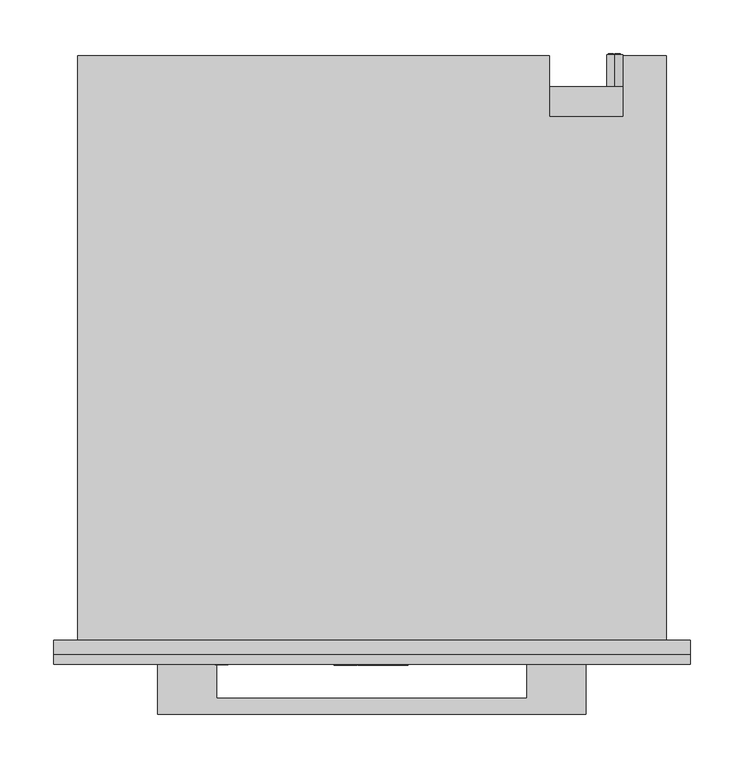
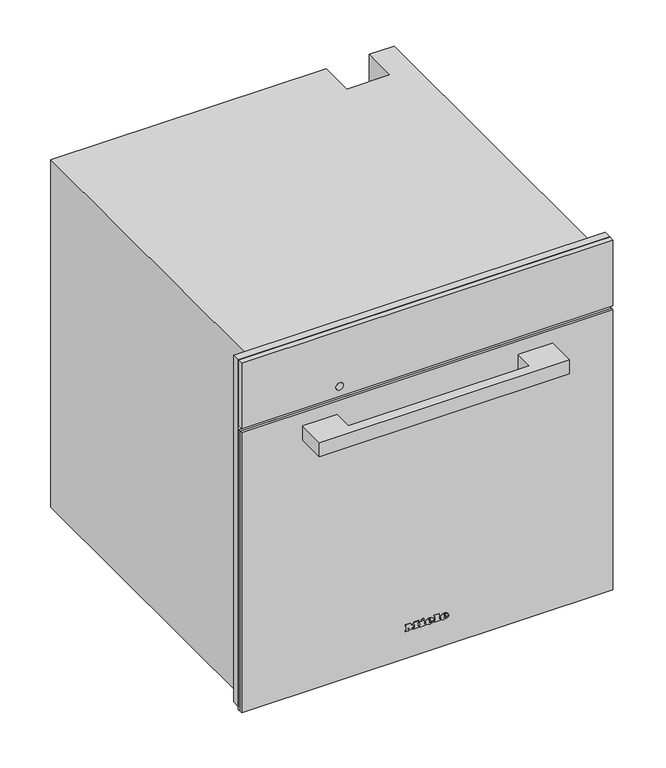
"""IFC4 building model written with IfcOpenShell, lengths in millimetres: proxy geometry, 12091810_NER_DGC7860HCPro_GRGR : 23786039_NER_12091810_DGC7860HCPro_GRGR."""

from ifc_helpers import new_model, si_unit, point, frame, frame_2d, origin, place, context, project, spatial, polyline, circle_curve, ellipse_curve, trimmed, segment, composite_curve, outline, extrude, faceted_brep, source, transform, mapped, element, save
from ifc_brep_helpers import plane_surface, cylinder_surface, revolved_surface, extruded_surface, advanced_brep


def specialty_equipment_02b3a867(model_context):
    return source(origin(), model_context, "Body", "SolidModel", [
        extrude(outline(polyline([(596.0, 297.5), (596.0, -297.5), (9.0, -297.5), (9.0, 297.5), (596.0, 297.5)]), holes=[polyline([(485.0, -272.5), (485.0, 272.5), (27.0, 272.5), (27.0, -272.5), (485.0, -272.5)])]), frame((0.0, -13.0, 0.0), z_axis=(0.0, 1.0, 0.0), x_axis=(0.0, 0.0, 1.0)), (0.0, 0.0, 1.0), 13.0),
        advanced_brep(
        [(227.0, 547.0, 396.5), (227.0, 547.0, 381.5), (221.4098301, 547.0, 384.0), (225.5, 547.0, 384.0), (225.5, 547.0, 394.0), (224.4955303, 547.0, 394.0), (224.4955303, 547.0, 385.0), (221.0315043, 547.0, 385.0), (221.0315043, 547.0, 384.4582978), (232.0, 547.0, 384.0), (232.0, 547.0, 394.0), (227.0, 547.0, 394.0), (227.0, 547.0, 393.0), (231.0, 547.0, 393.0), (231.0, 547.0, 389.5), (228.0, 547.0, 389.5), (228.0, 547.0, 388.5), (231.0, 547.0, 388.5), (231.0, 547.0, 385.0), (227.0, 547.0, 385.0), (227.0, 547.0, 384.0), (227.0, 517.0, 381.5), (227.0, 517.0, 396.5), (232.0, 548.0, 394.0), (232.0, 548.0, 384.0), (227.0, 548.0, 384.0), (227.0, 548.0, 385.0), (231.0, 548.0, 385.0), (231.0, 548.0, 388.5), (228.0, 548.0, 388.5), (228.0, 548.0, 389.5), (231.0, 548.0, 389.5), (231.0, 548.0, 393.0), (227.0, 548.0, 393.0), (227.0, 548.0, 394.0), (225.5, 548.0, 384.0), (221.0315043, 548.0, 384.0), (221.0315043, 548.0, 385.0), (224.4955303, 548.0, 385.0), (224.4955303, 548.0, 394.0), (225.5, 548.0, 394.0), (221.0315043, 547.0, 384.0)],
        [
            (0, 1, circle_curve(frame((227.0, 547.0, 389.0), z_axis=(0.0, 1.0, 0.0), x_axis=(0.0, 0.0, 1.0)), 7.5)),
            (1, 2, circle_curve(frame((227.0, 547.0, 389.0), z_axis=(0.0, 1.0, 0.0), x_axis=(0.0, 0.0, 1.0)), 7.5)),
            (2, 3),
            (3, 4),
            (4, 5),
            (5, 6),
            (6, 7),
            (7, 8),
            (8, 0, circle_curve(frame((227.0, 547.0, 389.0), z_axis=(0.0, 1.0, 0.0), x_axis=(0.0, 0.0, 1.0)), 7.5)),
            (9, 10),
            (10, 11),
            (11, 12),
            (12, 13),
            (13, 14),
            (14, 15),
            (15, 16),
            (16, 17),
            (17, 18),
            (18, 19),
            (19, 20),
            (20, 9),
            (21, 22, circle_curve(frame((227.0, 517.0, 389.0), z_axis=(0.0, -1.0, 0.0), x_axis=(0.0, 0.0, 1.0)), 7.5)),
            (22, 21, circle_curve(frame((227.0, 517.0, 389.0), z_axis=(0.0, -1.0, 0.0), x_axis=(0.0, 0.0, 1.0)), 7.5)),
            (0, 22),
            (21, 1),
            (8, 2, circle_curve(frame((227.0, 547.0, 389.0), z_axis=(0.0, -1.0, 0.0), x_axis=(0.0, 0.0, 1.0)), 7.5)),
            (23, 24),
            (24, 25),
            (25, 26),
            (26, 27),
            (27, 28),
            (28, 29),
            (29, 30),
            (30, 31),
            (31, 32),
            (32, 33),
            (33, 34),
            (34, 23),
            (35, 36),
            (36, 37),
            (37, 38),
            (38, 39),
            (39, 40),
            (40, 35),
            (8, 41),
            (41, 2),
            (23, 10),
            (9, 24),
            (20, 25),
            (19, 26),
            (18, 27),
            (17, 28),
            (16, 29),
            (15, 30),
            (14, 31),
            (13, 32),
            (12, 33),
            (11, 34),
            (35, 3),
            (41, 36),
            (7, 37),
            (6, 38),
            (5, 39),
            (4, 40),
        ],
        [
            plane_surface(frame((227.0, 547.0, 396.5), z_axis=(0.0, 1.0, 0.0), x_axis=(1.0, 0.0, 0.0))),
            plane_surface(frame((227.0, 517.0, 396.5), z_axis=(0.0, -1.0, 0.0), x_axis=(-1.0, 0.0, 0.0))),
            cylinder_surface(frame((227.0, 547.0, 389.0), z_axis=(0.0, -1.0, 0.0), x_axis=(0.0, 0.0, 1.0)), 7.5),
            plane_surface(frame((232.0, 548.0, 394.0), z_axis=(0.0, 1.0, 0.0), x_axis=(0.0, 0.0, -1.0))),
            plane_surface(frame((232.0, 547.0, 394.0), z_axis=(0.0, -1.0, 0.0), x_axis=(0.0, 0.0, 1.0))),
            plane_surface(frame((232.0, 548.0, 394.0), z_axis=(1.0, 0.0, 0.0), x_axis=(0.0, -1.0, 0.0))),
            plane_surface(frame((232.0, 548.0, 384.0), z_axis=(0.0, 0.0, -1.0), x_axis=(0.0, -1.0, 0.0))),
            plane_surface(frame((227.0, 548.0, 384.0), z_axis=(-1.0, 0.0, 0.0), x_axis=(0.0, -1.0, 0.0))),
            plane_surface(frame((227.0, 548.0, 385.0), z_axis=(0.0, 0.0, 1.0), x_axis=(0.0, -1.0, 0.0))),
            plane_surface(frame((231.0, 548.0, 385.0), z_axis=(-1.0, 0.0, 0.0), x_axis=(0.0, -1.0, 0.0))),
            plane_surface(frame((231.0, 548.0, 388.5), z_axis=(0.0, 0.0, -1.0), x_axis=(0.0, -1.0, 0.0))),
            plane_surface(frame((228.0, 548.0, 388.5), z_axis=(-1.0, 0.0, 0.0), x_axis=(0.0, -1.0, 0.0))),
            plane_surface(frame((228.0, 548.0, 389.5), z_axis=(0.0, 0.0, 1.0), x_axis=(0.0, -1.0, 0.0))),
            plane_surface(frame((231.0, 548.0, 389.5), z_axis=(-1.0, 0.0, 0.0), x_axis=(0.0, -1.0, 0.0))),
            plane_surface(frame((231.0, 548.0, 393.0), z_axis=(0.0, 0.0, -1.0), x_axis=(0.0, -1.0, 0.0))),
            plane_surface(frame((227.0, 548.0, 393.0), z_axis=(-1.0, 0.0, 0.0), x_axis=(0.0, -1.0, 0.0))),
            plane_surface(frame((227.0, 548.0, 394.0), z_axis=(0.0, 0.0, 1.0), x_axis=(0.0, -1.0, 0.0))),
            plane_surface(frame((225.5, 548.0, 384.0), z_axis=(0.0, 0.0, -1.0), x_axis=(0.0, -1.0, 0.0))),
            plane_surface(frame((221.0315043, 548.0, 384.0), z_axis=(-1.0, 0.0, 0.0), x_axis=(0.0, -1.0, 0.0))),
            plane_surface(frame((221.0315043, 548.0, 385.0), z_axis=(0.0, 0.0, 1.0), x_axis=(0.0, -1.0, 0.0))),
            plane_surface(frame((224.4955303, 548.0, 385.0), z_axis=(-1.0, 0.0, 0.0), x_axis=(0.0, -1.0, 0.0))),
            plane_surface(frame((224.4955303, 548.0, 394.0), z_axis=(0.0, 0.0, 1.0), x_axis=(0.0, -1.0, 0.0))),
            plane_surface(frame((225.5, 548.0, 394.0), z_axis=(1.0, 0.0, 0.0), x_axis=(0.0, -1.0, 0.0))),
        ],
        [
            (0, [[1, 2, 3, 4, 5, 6, 7, 8, 9], [10, 11, 12, 13, 14, 15, 16, 17, 18, 19, 20, 21]]),
            (1, [[22, 23]]),
            (2, [[-1, 24, -22, 25]]),
            (2, [[-23, -24, -9, 26, -2, -25]]),
            (3, [[27, 28, 29, 30, 31, 32, 33, 34, 35, 36, 37, 38]]),
            (3, [[39, 40, 41, 42, 43, 44]]),
            (4, [[45, 46, -26]]),
            (5, [[-27, 47, -10, 48]]),
            (6, [[-28, -48, -21, 49]]),
            (7, [[-29, -49, -20, 50]]),
            (8, [[-30, -50, -19, 51]]),
            (9, [[-31, -51, -18, 52]]),
            (10, [[-32, -52, -17, 53]]),
            (11, [[-33, -53, -16, 54]]),
            (12, [[-34, -54, -15, 55]]),
            (13, [[-35, -55, -14, 56]]),
            (14, [[-36, -56, -13, 57]]),
            (15, [[-37, -57, -12, 58]]),
            (16, [[-38, -58, -11, -47]]),
            (17, [[-39, 59, -3, -46, 60]]),
            (18, [[-40, -60, -45, -8, 61]]),
            (19, [[-41, -61, -7, 62]]),
            (20, [[-42, -62, -6, 63]]),
            (21, [[-43, -63, -5, 64]]),
            (22, [[-44, -64, -4, -59]]),
        ],
    ),
        faceted_brep([(-275.0, 546.0, 0.0), (-275.0, 546.0, 588.0), (166.0, 546.0, 588.0), (166.0, 546.0, 0.0), (235.0, 546.0, 588.0), (275.0, 546.0, 588.0), (275.0, 546.0, 478.0), (235.0, 546.0, 478.0), (275.0, 0.0, 588.0), (-275.0, 0.0, 588.0), (-275.0, 0.0, 0.0), (275.0, 0.0, 0.0), (-272.5, 0.0, 485.0), (272.5, 0.0, 485.0), (272.5, 0.0, 27.0), (-272.5, 0.0, 27.0), (235.0, 489.0, 588.0), (166.0, 489.0, 588.0), (166.0, 517.0, 0.0), (275.0, 517.0, 0.0), (275.0, 517.0, 478.0), (272.5, 17.0, 485.0), (-272.5, 17.0, 485.0), (-272.5, 17.0, 27.0), (272.5, 17.0, 27.0), (231.0, 17.0, 409.0), (231.0, 17.0, 61.0), (-231.0, 17.0, 61.0), (-231.0, 17.0, 409.0), (231.0, 411.0, 409.0), (-231.0, 411.0, 409.0), (-231.0, 411.0, 61.0), (231.0, 411.0, 61.0), (235.0, 489.0, 477.0), (166.0, 489.0, 477.0), (166.0, 517.0, 477.0), (235.0, 517.0, 477.0), (235.0, 517.0, 478.0)], [[[0, 1, 2, 3]], [[4, 5, 6, 7]], [[8, 9, 10, 11], [12, 13, 14, 15]], [[9, 8, 5, 4, 16, 17, 2, 1]], [[1, 0, 10, 9]], [[11, 10, 0, 3, 18, 19]], [[8, 11, 19, 20, 6, 5]], [[21, 22, 23, 24], [25, 26, 27, 28]], [[22, 21, 13, 12]], [[23, 22, 12, 15]], [[24, 23, 15, 14]], [[21, 24, 14, 13]], [[29, 30, 31, 32]], [[29, 32, 26, 25]], [[32, 31, 27, 26]], [[31, 30, 28, 27]], [[30, 29, 25, 28]], [[16, 33, 34, 17]], [[17, 34, 35, 18, 3, 2]], [[34, 33, 36, 35]], [[33, 16, 4, 7, 37, 36]], [[37, 20, 19, 18, 35, 36]], [[20, 37, 7, 6]]]),
        advanced_brep(
        [(26.2998, -23.0, 52.7018), (26.2998, -23.0, 53.8532), (33.9264, -23.0, 53.8532), (20.6568, -23.0, 53.8532), (23.7918, -23.0, 50.0), (33.7326, -23.0, 52.7018), (30.2898, -23.0, 52.7018), (27.5766, -23.0, 51.425), (26.2998, -23.0, 55.3124), (26.2998, -23.0, 56.555), (28.2492, -23.0, 56.555), (28.2492, -23.0, 55.3124), (26.2998, -22.0, 52.7018), (27.5766, -22.0, 51.425), (30.2898, -22.0, 52.7018), (33.7326, -22.0, 52.7018), (23.7918, -22.0, 50.0), (20.6568, -22.0, 53.8532), (33.9264, -22.0, 53.8532), (26.2998, -22.0, 53.8532), (26.2998, -22.0, 55.3124), (28.2492, -22.0, 55.3124), (28.2492, -22.0, 56.555), (26.2998, -22.0, 56.555)],
        [
            (0, 1),
            (1, 2),
            (2, 3, ellipse_curve(frame((27.2916, -23.0, 53.8532), z_axis=(0.0, -1.0, 0.0), x_axis=(-1.0, 0.0, 0.0)), 6.6348, 5.4834)),
            (3, 4, circle_curve(frame((25.0686622, -23.0, 54.2408), z_axis=(0.0, -1.0, 0.0), x_axis=(0.0, 0.0, -1.0)), 4.4288556)),
            (4, 5, circle_curve(frame((27.1587808, -23.0, 57.2504), z_axis=(0.0, -1.0, 0.0), x_axis=(0.0, 0.0, -1.0)), 7.9940516)),
            (5, 6),
            (6, 7, circle_curve(frame((28.1338588, -23.0, 53.762), z_axis=(0.0, 1.0, 0.0), x_axis=(0.0, 0.0, -1.0)), 2.4025208)),
            (7, 0, circle_curve(frame((27.5766, -23.0, 52.7018), z_axis=(0.0, 1.0, 0.0), x_axis=(0.0, 0.0, -1.0)), 1.2768)),
            (8, 9),
            (9, 10, circle_curve(frame((27.2745, -23.0, 56.555), z_axis=(0.0, 1.0, 0.0), x_axis=(0.0, 0.0, -1.0)), 0.9747)),
            (10, 11),
            (11, 8),
            (12, 13, circle_curve(frame((27.5766, -22.0, 52.7018), z_axis=(0.0, -1.0, 0.0), x_axis=(0.0, 0.0, -1.0)), 1.2768)),
            (13, 14, circle_curve(frame((28.1338588, -22.0, 53.762), z_axis=(0.0, -1.0, 0.0), x_axis=(0.0, 0.0, -1.0)), 2.4025208)),
            (14, 15),
            (15, 16, circle_curve(frame((27.1587808, -22.0, 57.2504), z_axis=(0.0, 1.0, 0.0), x_axis=(0.0, 0.0, -1.0)), 7.9940516)),
            (16, 17, circle_curve(frame((25.0686622, -22.0, 54.2408), z_axis=(0.0, 1.0, 0.0), x_axis=(0.0, 0.0, -1.0)), 4.4288556)),
            (17, 18, ellipse_curve(frame((27.2916, -22.0, 53.8532), z_axis=(0.0, 1.0, 0.0), x_axis=(-1.0, 0.0, 0.0)), 6.6348, 5.4834)),
            (18, 19),
            (19, 12),
            (20, 21),
            (21, 22),
            (22, 23, circle_curve(frame((27.2745, -22.0, 56.555), z_axis=(0.0, -1.0, 0.0), x_axis=(0.0, 0.0, -1.0)), 0.9747)),
            (23, 20),
            (0, 12),
            (19, 1),
            (18, 2),
            (5, 15),
            (14, 6),
            (17, 3),
            (13, 7),
            (16, 4),
            (8, 20),
            (23, 9),
            (22, 10),
            (21, 11),
        ],
        [
            plane_surface(frame((26.2998, -23.0, 53.8532), z_axis=(0.0, -1.0, 0.0), x_axis=(0.0, 0.0, 1.0))),
            plane_surface(frame((26.2998, -22.0, 53.8532), z_axis=(0.0, 1.0, 0.0), x_axis=(0.0, 0.0, -1.0))),
            plane_surface(frame((26.2998, -23.0, 52.7018), z_axis=(1.0, 0.0, 0.0), x_axis=(0.0, 1.0, 0.0))),
            plane_surface(frame((26.2998, -23.0, 53.8532), z_axis=(0.0, 0.0, -1.0), x_axis=(0.0, 1.0, 0.0))),
            plane_surface(frame((33.7326, -23.0, 52.7018), z_axis=(0.0, 0.0, 1.0), x_axis=(0.0, 1.0, 0.0))),
            extruded_surface(trimmed(ellipse_curve(frame((27.2916, -21.0, 53.8532), z_axis=(0.0, -1.0, 0.0), x_axis=(-1.0, 0.0, 0.0)), 6.6348, 5.4834), [point((33.9264, -21.0, 53.8532))], [point((20.6568, -21.0, 53.8532))], True, "CARTESIAN"), (0.0, -1.0, 0.0), 1.0),
            revolved_surface(polyline([(28.1338588, -22.0, 51.3594792), (28.1338588, -23.0, 51.3594792)]), (28.1338588, -22.0, 53.762), (0.0, 1.0, 0.0)),
            revolved_surface(polyline([(27.5766, -22.0, 51.425), (27.5766, -23.0, 51.425)]), (27.5766, -22.0, 52.7018), (0.0, 1.0, 0.0)),
            cylinder_surface(frame((25.0686622, -22.0, 54.2408), z_axis=(0.0, -1.0, 0.0), x_axis=(0.0, 0.0, -1.0)), 4.4288556),
            cylinder_surface(frame((27.1587808, -22.0, 57.2504), z_axis=(0.0, -1.0, 0.0), x_axis=(0.0, 0.0, -1.0)), 7.9940516),
            plane_surface(frame((26.2998, -23.0, 55.3124), z_axis=(1.0, 0.0, 0.0), x_axis=(0.0, 1.0, 0.0))),
            revolved_surface(polyline([(27.2745, -22.0, 55.5803), (27.2745, -23.0, 55.5803)]), (27.2745, -22.0, 56.555), (0.0, 1.0, 0.0)),
            plane_surface(frame((28.2492, -23.0, 56.555), z_axis=(-1.0, 0.0, 0.0), x_axis=(0.0, 1.0, 0.0))),
            plane_surface(frame((28.2492, -23.0, 55.3124), z_axis=(0.0, 0.0, 1.0), x_axis=(0.0, 1.0, 0.0))),
        ],
        [
            (0, [[1, 2, 3, 4, 5, 6, 7, 8], [9, 10, 11, 12]]),
            (1, [[13, 14, 15, 16, 17, 18, 19, 20], [21, 22, 23, 24]]),
            (2, [[-1, 25, -20, 26]]),
            (3, [[-2, -26, -19, 27]]),
            (4, [[-6, 28, -15, 29]]),
            (5, [[-3, -27, -18, 30]]),
            (6, [[-7, -29, -14, 31]]),
            (7, [[-8, -31, -13, -25]]),
            (8, [[-4, -30, -17, 32]]),
            (9, [[-5, -32, -16, -28]]),
            (10, [[-9, 33, -24, 34]]),
            (11, [[-10, -34, -23, 35]]),
            (12, [[-11, -35, -22, 36]]),
            (13, [[-12, -36, -21, -33]]),
        ],
    ),
        advanced_brep(
        [(2.508, -23.0, 52.7018), (2.508, -23.0, 53.8532), (10.1346, -23.0, 53.8532), (-3.135, -23.0, 53.8532), (0.0, -23.0, 50.0), (9.9408, -23.0, 52.7018), (6.498, -23.0, 52.7018), (3.7848, -23.0, 51.425), (2.508, -23.0, 55.3124), (2.508, -23.0, 56.555), (4.4574, -23.0, 56.555), (4.4574, -23.0, 55.3124), (2.508, -22.0, 52.7018), (3.7848, -22.0, 51.425), (6.498, -22.0, 52.7018), (9.9408, -22.0, 52.7018), (0.0, -22.0, 50.0), (-3.135, -22.0, 53.8532), (10.1346, -22.0, 53.8532), (2.508, -22.0, 53.8532), (2.508, -22.0, 55.3124), (4.4574, -22.0, 55.3124), (4.4574, -22.0, 56.555), (2.508, -22.0, 56.555)],
        [
            (0, 1),
            (1, 2),
            (2, 3, ellipse_curve(frame((3.4998, -23.0, 53.8532), z_axis=(0.0, -1.0, 0.0), x_axis=(-1.0, 0.0, 0.0)), 6.6348, 5.4834)),
            (3, 4, circle_curve(frame((1.2768622, -23.0, 54.2408), z_axis=(0.0, -1.0, 0.0), x_axis=(0.0, 0.0, -1.0)), 4.4288556)),
            (4, 5, circle_curve(frame((3.3669808, -23.0, 57.2504), z_axis=(0.0, -1.0, 0.0), x_axis=(0.0, 0.0, -1.0)), 7.9940516)),
            (5, 6),
            (6, 7, circle_curve(frame((4.3420588, -23.0, 53.762), z_axis=(0.0, 1.0, 0.0), x_axis=(0.0, 0.0, -1.0)), 2.4025208)),
            (7, 0, circle_curve(frame((3.7848, -23.0, 52.7018), z_axis=(0.0, 1.0, 0.0), x_axis=(0.0, 0.0, -1.0)), 1.2768)),
            (8, 9),
            (9, 10, circle_curve(frame((3.4827, -23.0, 56.555), z_axis=(0.0, 1.0, 0.0), x_axis=(0.0, 0.0, -1.0)), 0.9747)),
            (10, 11),
            (11, 8),
            (12, 13, circle_curve(frame((3.7848, -22.0, 52.7018), z_axis=(0.0, -1.0, 0.0), x_axis=(0.0, 0.0, -1.0)), 1.2768)),
            (13, 14, circle_curve(frame((4.3420588, -22.0, 53.762), z_axis=(0.0, -1.0, 0.0), x_axis=(0.0, 0.0, -1.0)), 2.4025208)),
            (14, 15),
            (15, 16, circle_curve(frame((3.3669808, -22.0, 57.2504), z_axis=(0.0, 1.0, 0.0), x_axis=(0.0, 0.0, -1.0)), 7.9940516)),
            (16, 17, circle_curve(frame((1.2768622, -22.0, 54.2408), z_axis=(0.0, 1.0, 0.0), x_axis=(0.0, 0.0, -1.0)), 4.4288556)),
            (17, 18, ellipse_curve(frame((3.4998, -22.0, 53.8532), z_axis=(0.0, 1.0, 0.0), x_axis=(-1.0, 0.0, 0.0)), 6.6348, 5.4834)),
            (18, 19),
            (19, 12),
            (20, 21),
            (21, 22),
            (22, 23, circle_curve(frame((3.4827, -22.0, 56.555), z_axis=(0.0, -1.0, 0.0), x_axis=(0.0, 0.0, -1.0)), 0.9747)),
            (23, 20),
            (0, 12),
            (19, 1),
            (18, 2),
            (5, 15),
            (14, 6),
            (17, 3),
            (13, 7),
            (16, 4),
            (8, 20),
            (23, 9),
            (22, 10),
            (21, 11),
        ],
        [
            plane_surface(frame((2.508, -23.0, 53.8532), z_axis=(0.0, -1.0, 0.0), x_axis=(0.0, 0.0, 1.0))),
            plane_surface(frame((2.508, -22.0, 53.8532), z_axis=(0.0, 1.0, 0.0), x_axis=(0.0, 0.0, -1.0))),
            plane_surface(frame((2.508, -23.0, 52.7018), z_axis=(1.0, 0.0, 0.0), x_axis=(0.0, 1.0, 0.0))),
            plane_surface(frame((2.508, -23.0, 53.8532), z_axis=(0.0, 0.0, -1.0), x_axis=(0.0, 1.0, 0.0))),
            plane_surface(frame((9.9408, -23.0, 52.7018), z_axis=(0.0, 0.0, 1.0), x_axis=(0.0, 1.0, 0.0))),
            extruded_surface(trimmed(ellipse_curve(frame((3.4998, -21.0, 53.8532), z_axis=(0.0, -1.0, 0.0), x_axis=(-1.0, 0.0, 0.0)), 6.6348, 5.4834), [point((10.1346, -21.0, 53.8532))], [point((-3.135, -21.0, 53.8532))], True, "CARTESIAN"), (0.0, -1.0, 0.0), 1.0),
            revolved_surface(polyline([(4.3420588, -22.0, 51.3594792), (4.3420588, -23.0, 51.3594792)]), (4.3420588, -22.0, 53.762), (0.0, 1.0, 0.0)),
            revolved_surface(polyline([(3.7848, -22.0, 51.425), (3.7848, -23.0, 51.425)]), (3.7848, -22.0, 52.7018), (0.0, 1.0, 0.0)),
            cylinder_surface(frame((1.2768622, -22.0, 54.2408), z_axis=(0.0, -1.0, 0.0), x_axis=(0.0, 0.0, -1.0)), 4.4288556),
            cylinder_surface(frame((3.3669808, -22.0, 57.2504), z_axis=(0.0, -1.0, 0.0), x_axis=(0.0, 0.0, -1.0)), 7.9940516),
            plane_surface(frame((2.508, -23.0, 55.3124), z_axis=(1.0, 0.0, 0.0), x_axis=(0.0, 1.0, 0.0))),
            revolved_surface(polyline([(3.4827, -22.0, 55.5803), (3.4827, -23.0, 55.5803)]), (3.4827, -22.0, 56.555), (0.0, 1.0, 0.0)),
            plane_surface(frame((4.4574, -23.0, 56.555), z_axis=(-1.0, 0.0, 0.0), x_axis=(0.0, 1.0, 0.0))),
            plane_surface(frame((4.4574, -23.0, 55.3124), z_axis=(0.0, 0.0, 1.0), x_axis=(0.0, 1.0, 0.0))),
        ],
        [
            (0, [[1, 2, 3, 4, 5, 6, 7, 8], [9, 10, 11, 12]]),
            (1, [[13, 14, 15, 16, 17, 18, 19, 20], [21, 22, 23, 24]]),
            (2, [[-1, 25, -20, 26]]),
            (3, [[-2, -26, -19, 27]]),
            (4, [[-6, 28, -15, 29]]),
            (5, [[-3, -27, -18, 30]]),
            (6, [[-7, -29, -14, 31]]),
            (7, [[-8, -31, -13, -25]]),
            (8, [[-4, -30, -17, 32]]),
            (9, [[-5, -32, -16, -28]]),
            (10, [[-9, 33, -24, 34]]),
            (11, [[-10, -34, -23, 35]]),
            (12, [[-11, -35, -22, 36]]),
            (13, [[-12, -36, -21, -33]]),
        ],
    ),
        extrude(outline(polyline([(60.7274, -9.9522), (58.8806, -9.0858), (60.6818, -5.2212), (62.5286, -6.0762), (60.7274, -9.9522)])), frame((0.0, -23.0, 0.0), z_axis=(0.0, 1.0, 0.0), x_axis=(0.0, 0.0, 1.0)), (0.0, 0.0, 1.0), 1.0),
        extrude(outline(polyline([(58.6298, -12.768), (56.5892, -12.768), (56.5892, -11.4114), (51.9152, -11.4114), (51.9152, -12.768), (50.0, -12.768), (50.0, -3.7734), (51.9152, -3.7734), (51.9152, -5.0958), (58.6298, -5.0958), (58.6298, -12.768)])), frame((0.0, -23.0, 0.0), z_axis=(0.0, 1.0, 0.0), x_axis=(0.0, 0.0, 1.0)), (0.0, 0.0, 1.0), 1.0),
        extrude(outline(polyline([(59.5418, 10.773), (59.5418, 12.141), (51.9152, 12.141), (51.9152, 10.773), (50.0, 10.773), (50.0, 20.0184), (51.9152, 20.0184), (51.9152, 18.6162), (61.4, 18.6162), (61.4, 10.773), (59.5418, 10.773)])), frame((0.0, -23.0, 0.0), z_axis=(0.0, 1.0, 0.0), x_axis=(0.0, 0.0, 1.0)), (0.0, 0.0, 1.0), 1.0),
        extrude(outline(polyline([(59.5418, -35.4882), (59.5418, -34.1088), (51.9152, -34.1088), (51.9152, -35.4882), (50.0, -35.4882), (50.0, -30.4722), (51.9152, -30.4722), (51.9152, -31.8402), (56.7429247, -31.8402), (50.0, -26.7444), (56.9402223, -21.6258), (51.9152, -21.6258), (51.9152, -23.028), (50.0, -23.028), (50.0, -13.9308), (51.9152, -13.9308), (51.9152, -15.3786), (59.5418, -15.3786), (59.5418, -13.9308), (61.4, -13.9308), (61.4, -20.8734), (57.125, -24.2022), (61.4, -27.5424), (61.4, -35.4882), (59.5418, -35.4882)])), frame((0.0, -23.0, 0.0), z_axis=(0.0, 1.0, 0.0), x_axis=(0.0, 0.0, 1.0)), (0.0, 0.0, 1.0), 1.0),
        extrude(outline(polyline([(297.5, -22.0), (-297.5, -22.0), (-297.5, -13.0), (297.5, -13.0), (297.5, -22.0)])), frame((0.0, 0.0, 485.0), z_axis=(0.0, 0.0, 1.0), x_axis=(1.0, 0.0, 0.0)), (0.0, 0.0, 1.0), 111.0),
        extrude(outline(composite_curve([segment(trimmed(circle_curve(frame_2d((502.0, -140.5745637)), 6.0), [point((502.0, -146.5745637))], [point((502.0, -134.5745637))], False, "CARTESIAN"), True, "CONTINUOUS"), segment(trimmed(circle_curve(frame_2d((502.0, -140.5745637)), 6.0), [point((502.0, -134.5745637))], [point((502.0, -146.5745637))], False, "CARTESIAN"), True, "CONTINUOUS")], self_intersect=False)), frame((0.0, -22.5, 0.0), z_axis=(0.0, 1.0, 0.0), x_axis=(0.0, 0.0, 1.0)), (0.0, 0.0, 1.0), 1.0),
        extrude(outline(polyline([(-297.5, -18.0), (297.5, -18.0), (297.5, -22.0), (-297.5, -22.0), (-297.5, -18.0)])), frame((0.0, 0.0, 4.0), z_axis=(0.0, 0.0, 1.0), x_axis=(1.0, 0.0, 0.0)), (0.0, 0.0, 1.0), 474.0),
        extrude(outline(polyline([(297.5, -18.0), (-297.5, -18.0), (-297.5, -13.0), (297.5, -13.0), (297.5, -18.0)])), frame((0.0, 0.0, 4.0), z_axis=(0.0, 0.0, 1.0), x_axis=(1.0, 0.0, 0.0)), (0.0, 0.0, 1.0), 474.0),
        extrude(outline(polyline([(-200.0, -69.0), (-200.0, -22.0), (-145.0, -22.0), (-145.0, -54.0), (145.0, -54.0), (145.0, -22.0), (200.0, -22.0), (200.0, -69.0), (-200.0, -69.0)])), frame((0.0, 0.0, 432.0), z_axis=(0.0, 0.0, 1.0), x_axis=(1.0, 0.0, 0.0)), (0.0, 0.0, 1.0), 24.0),
    ])


if __name__ == "__main__":
    model = new_model("IFC4")
    model_context = context("Model", 3, world=origin())
    ifc_project = project(units=[si_unit("LENGTHUNIT", "METRE", prefix="MILLI")], contexts=[model_context])
    site = spatial("IfcSite", under=ifc_project)
    building = spatial("IfcBuilding", under=site)
    placement = place(None, origin())
    specialty_equipment_shape = specialty_equipment_02b3a867(model_context)
    element("IfcBuildingElementProxy", 1, Name="12091810_NER_DGC7860HCPro_GRGR : 23786039_NER_12091810_DGC7860HCPro_GRGR", ObjectType="12091810_NER_DGC7860HCPro_GRGR : 23786039_NER_12091810_DGC7860HCPro_GRGR", at=placement, inside=building, context=model_context, shape_type="MappedRepresentation", body=[
        mapped(specialty_equipment_shape, transform((0.0, 0.0, 0.0), x_axis=(1.0, 0.0, 0.0), y_axis=(0.0, 1.0, 0.0), z_axis=(0.0, 0.0, 1.0))),
    ])
    save(model, "model.ifc")
